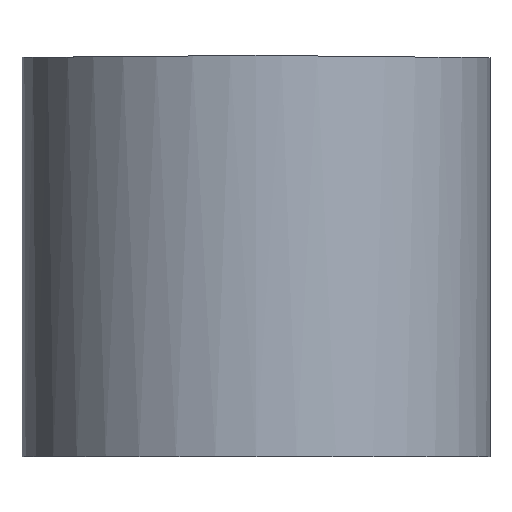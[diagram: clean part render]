
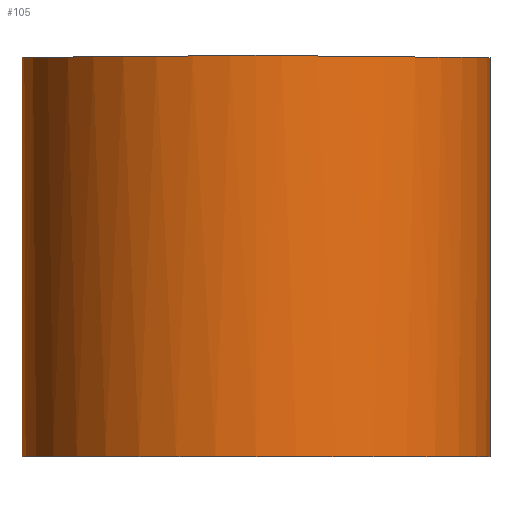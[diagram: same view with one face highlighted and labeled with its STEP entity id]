
A CAD part, front view. The second image highlights one B-rep face of the part: STEP entity #105.
In plain terms, the highlighted cylindrical face has radius 4.445 mm (diameter 8.89 mm), a full revolution.
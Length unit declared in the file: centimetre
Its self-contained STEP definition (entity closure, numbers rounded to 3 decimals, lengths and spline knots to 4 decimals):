
#34=CIRCLE('',#112,0.4445);
#35=CYLINDRICAL_SURFACE('',#111,0.4445);
#36=B_SPLINE_CURVE_WITH_KNOTS('',3,(#148,#149,#150,#151,#152,#153),.UNSPECIFIED.,
 .F.,.U.,(4,2,4),(0.,0.0244,0.0488),.UNSPECIFIED.);
#37=B_SPLINE_CURVE_WITH_KNOTS('',3,(#155,#156,#157,#158,#159,#160),.UNSPECIFIED.,
 .F.,.U.,(4,2,4),(0.,0.0123,0.0488),.UNSPECIFIED.);
#38=B_SPLINE_CURVE_WITH_KNOTS('',3,(#173,#174,#175,#176,#177,#178),.UNSPECIFIED.,
 .F.,.U.,(4,2,4),(0.,0.0244,0.0488),.UNSPECIFIED.);
#39=B_SPLINE_CURVE_WITH_KNOTS('',3,(#179,#180,#181,#182,#183,#184),.UNSPECIFIED.,
 .F.,.U.,(4,2,4),(0.,0.0122,0.0488),.UNSPECIFIED.);
#48=VERTEX_POINT('',#130);
#49=VERTEX_POINT('',#131);
#50=VERTEX_POINT('',#135);
#51=VERTEX_POINT('',#136);
#52=VERTEX_POINT('',#154);
#53=VERTEX_POINT('',#161);
#54=VERTEX_POINT('',#187);
#55=ELLIPSE('',#108,0.4445,0.4445);
#56=ELLIPSE('',#110,0.4445,0.4445);
#57=EDGE_CURVE('',#48,#49,#55,.T.);
#59=EDGE_CURVE('',#50,#51,#56,.T.);
#61=EDGE_CURVE('',#51,#52,#36,.T.);
#62=EDGE_CURVE('',#53,#50,#37,.T.);
#64=EDGE_CURVE('',#52,#48,#38,.T.);
#65=EDGE_CURVE('',#49,#53,#39,.T.);
#66=EDGE_CURVE('',#54,#54,#34,.T.);
#79=ORIENTED_EDGE('',*,*,#59,.T.);
#80=ORIENTED_EDGE('',*,*,#61,.T.);
#81=ORIENTED_EDGE('',*,*,#64,.T.);
#82=ORIENTED_EDGE('',*,*,#57,.T.);
#83=ORIENTED_EDGE('',*,*,#65,.T.);
#84=ORIENTED_EDGE('',*,*,#62,.T.);
#85=ORIENTED_EDGE('',*,*,#66,.T.);
#91=EDGE_LOOP('',(#79,#80,#81,#82,#83,#84));
#92=EDGE_LOOP('',(#85));
#98=FACE_BOUND('',#91,.T.);
#99=FACE_BOUND('',#92,.T.);
#105=ADVANCED_FACE('',(#98,#99),#35,.T.);
#108=AXIS2_PLACEMENT_3D('',#129,#115,#116);
#110=AXIS2_PLACEMENT_3D('',#134,#119,#120);
#111=AXIS2_PLACEMENT_3D('',#185,#123,#124);
#112=AXIS2_PLACEMENT_3D('',#186,#125,#126);
#115=DIRECTION('',(-0.01,0.,-1.));
#116=DIRECTION('',(0.445,0.,-0.005));
#119=DIRECTION('',(0.009,0.,-1.));
#120=DIRECTION('',(0.445,0.,0.004));
#123=DIRECTION('',(0.,0.,1.));
#124=DIRECTION('',(0.445,0.,0.));
#125=DIRECTION('',(0.,0.,1.));
#126=DIRECTION('',(0.445,0.,0.));
#129=CARTESIAN_POINT('',(0.,0.,0.7625));
#130=CARTESIAN_POINT('',(0.0487,0.4418,0.762));
#131=CARTESIAN_POINT('',(0.0487,-0.4418,0.762));
#134=CARTESIAN_POINT('',(0.,0.,0.7624));
#135=CARTESIAN_POINT('',(-0.0487,-0.4418,0.762));
#136=CARTESIAN_POINT('',(-0.0487,0.4418,0.762));
#148=CARTESIAN_POINT('',(-0.0487,0.4418,0.762));
#149=CARTESIAN_POINT('',(-0.0406,0.4427,0.7622));
#150=CARTESIAN_POINT('',(-0.0325,0.4434,0.7624));
#151=CARTESIAN_POINT('',(-0.0163,0.4443,0.7626));
#152=CARTESIAN_POINT('',(-0.0081,0.4445,0.7627));
#153=CARTESIAN_POINT('',(0.,0.4445,0.7628));
#154=CARTESIAN_POINT('',(0.,0.4445,0.7628));
#155=CARTESIAN_POINT('',(0.,-0.4445,0.7628));
#156=CARTESIAN_POINT('',(-0.0041,-0.4445,0.7627));
#157=CARTESIAN_POINT('',(-0.0082,-0.4444,0.7627));
#158=CARTESIAN_POINT('',(-0.0245,-0.444,0.7625));
#159=CARTESIAN_POINT('',(-0.0366,-0.4432,0.7623));
#160=CARTESIAN_POINT('',(-0.0487,-0.4418,0.762));
#161=CARTESIAN_POINT('',(0.,-0.4445,0.7628));
#173=CARTESIAN_POINT('',(0.,0.4445,0.7628));
#174=CARTESIAN_POINT('',(0.0081,0.4445,0.7627));
#175=CARTESIAN_POINT('',(0.0163,0.4443,0.7626));
#176=CARTESIAN_POINT('',(0.0325,0.4434,0.7624));
#177=CARTESIAN_POINT('',(0.0406,0.4427,0.7622));
#178=CARTESIAN_POINT('',(0.0487,0.4418,0.762));
#179=CARTESIAN_POINT('',(0.0487,-0.4418,0.762));
#180=CARTESIAN_POINT('',(0.0447,-0.4423,0.7621));
#181=CARTESIAN_POINT('',(0.0406,-0.4427,0.7622));
#182=CARTESIAN_POINT('',(0.0244,-0.444,0.7625));
#183=CARTESIAN_POINT('',(0.0122,-0.4445,0.7627));
#184=CARTESIAN_POINT('',(0.,-0.4445,0.7628));
#185=CARTESIAN_POINT('',(0.,0.,0.));
#186=CARTESIAN_POINT('',(0.,0.,0.));
#187=CARTESIAN_POINT('',(0.4445,0.,0.));
